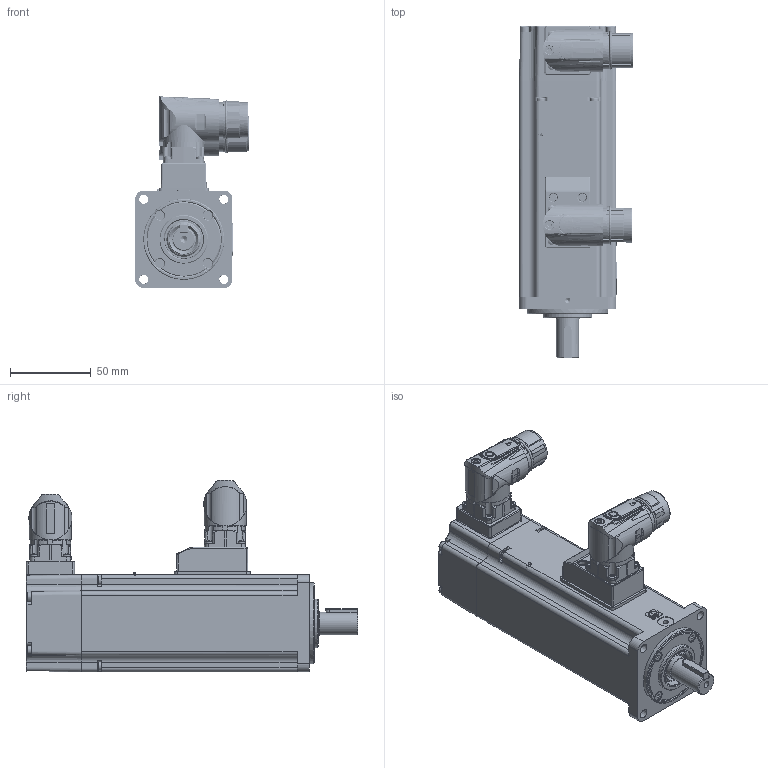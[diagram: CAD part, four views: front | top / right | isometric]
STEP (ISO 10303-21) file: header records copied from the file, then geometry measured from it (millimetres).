
FILE_DESCRIPTION(/* description */ ('AdapterTestApp'),/* implementation_level */ '2;1');
FILE_NAME(/* name */ 'TCE60 2B XX 3 A1 1 C2',/* time_stamp */ '2016-11-14T12:30:30+01:00',/* author */ ('AdapterTestApp'),/* organization */ ('Siemens PLM Software'),/* preprocessor_version */ 'ST-DEVELOPER v15.6',/* originating_system */ 'DEX',/* authorisation */ $);
FILE_SCHEMA (('AUTOMOTIVE_DESIGN {1 0 10303 214 3 1 1}'));
Products named in the file (1): TCE60 2B XX 3 A1 1 C2_vuoto
Bounding box: 70.16 x 205 x 118.5 mm (x, y, z)
Volume: 338709.9 mm3; surface area: 175038.3 mm2
Topology: 16 solids, 86 shells, 3164 faces, 8065 edges, 5185 vertices
Faces by surface type: plane 1485, cylinder 819, cone 304, bspline 249, torus 188, sphere 81, extrusion 38
Full cylindrical faces by diameter (mm): 1 x21, 1.2 x17, 1.4 x4, 1.5 x3, 2 x12, 2.013 x3, 2.2 x2, 2.459 x52, 2.5 x11, 2.6 x4, 2.65 x4, 2.7 x2, 2.8 x4, 3 x30, 3.2 x1, 3.242 x4, 3.4 x6, 3.5 x18, 4.134 x2, 4.4 x8, 4.5 x2, 4.7 x3, 5 x1, 5.5 x18, 5.8 x1, 5.9 x2, 6 x10, 6.5 x1, 6.8 x1, 9.98 x1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
Entity records: 105788 total; most frequent: CARTESIAN_POINT 34813, DIRECTION 14291, ORIENTED_EDGE 14078, EDGE_CURVE 7039, AXIS2_PLACEMENT_3D 5436, VERTEX_POINT 4875, FACE_BOUND 4186, EDGE_LOOP 4145
